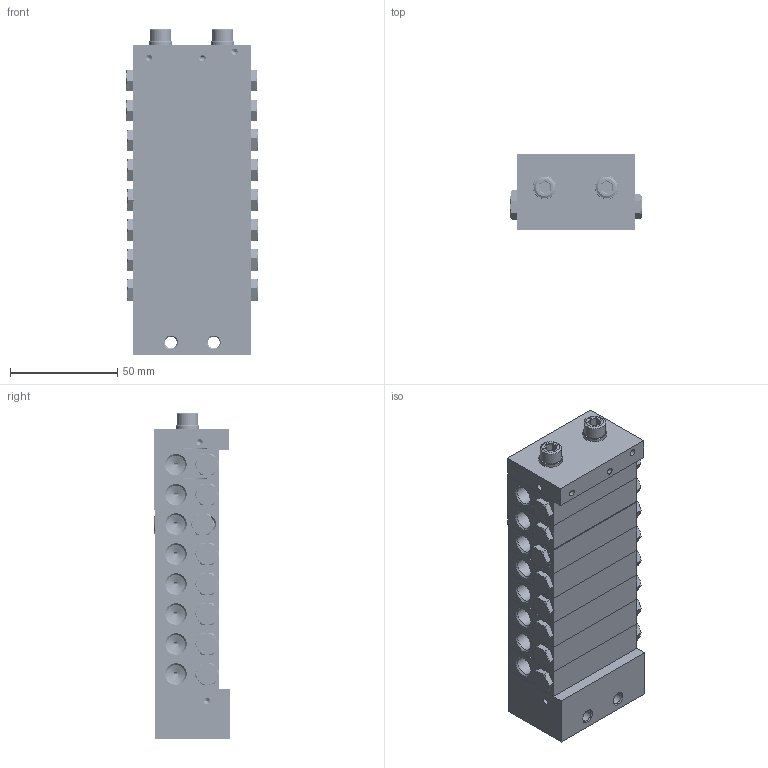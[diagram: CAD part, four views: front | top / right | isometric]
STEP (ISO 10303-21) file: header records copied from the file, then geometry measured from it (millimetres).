
FILE_DESCRIPTION (( 'STEP AP214' ), '1' );
FILE_NAME ('STW_XV_15_Auslässe.STEP', '2025-09-16T13:40:46', ( '' ), ( '' ), 'SwSTEP 2.0', 'SolidWorks 2022', '' );
FILE_SCHEMA (( 'AUTOMOTIVE_DESIGN' ));
Length unit declared in the file: millimetre
Products named in the file (11): M6X65_DIN_912; Verschlussstopfen_1_8; STW_XV_Kolbenanschlag; O_RING_3X1; STW_XV_MITTEL_1; STW_XV_ENGANG; U_Scheibe_6; STW_XV_Verbindungsstopen; STW_XV_END; STW_XV_15_Auslässe
Assembly tree (59 placements, depth 2):
  STW_XV_15_Auslässe
    STW_XV_ENGANG
    O_RING_3X1  x4
    STW_XV_MITTEL_1  x8
    STW_XV_END
    Verschlussstopfen_1_8  x16
    STW_XV_Kolbenanschlag  x16
    STW_XV_Verbindungsstopen  x8
    M6X65_DIN_912  x2
    U_Scheibe_6  x2
    Verschlussstopfen_1_8
Bounding box: 61.32 x 35.03 x 152.48 mm (x, y, z)
Volume: 227916.1 mm3; surface area: 112904.6 mm2
Topology: 59 solids, 59 shells, 2288 faces, 6013 edges, 3838 vertices
Faces by surface type: plane 1066, cylinder 635, cone 471, bspline 96, torus 20
Full cylindrical faces by diameter (mm): 2 x209, 3 x7, 5 x83, 5.5 x2, 5.9 x2, 6 x2, 6.2 x18, 6.4 x2, 6.5 x16, 7 x16, 8 x16, 8.4 x8, 8.6 x40, 9 x17, 9.7 x17, 9.73 x8, 10 x18, 11 x2, 15 x1
Entity records: 34799 total; most frequent: CARTESIAN_POINT 15304, ORIENTED_EDGE 2596, DIRECTION 2227, EDGE_CURVE 1298, VERTEX_POINT 919, EDGE_LOOP 845, AXIS2_PLACEMENT_3D 769, VECTOR 689
